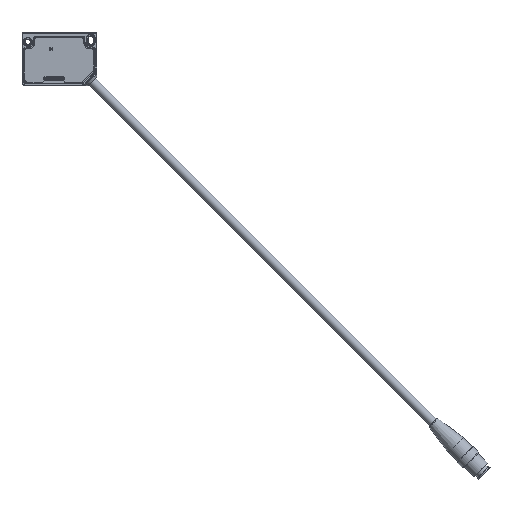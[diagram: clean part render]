
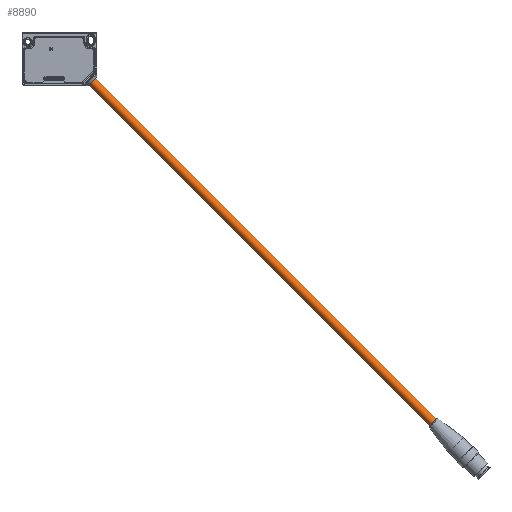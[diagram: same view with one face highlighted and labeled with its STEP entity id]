
A CAD part, left-side view. The second image highlights one B-rep face of the part: STEP entity #8890.
In plain terms, the highlighted cylindrical face has radius 2.75 mm (diameter 5.5 mm), a partial arc.
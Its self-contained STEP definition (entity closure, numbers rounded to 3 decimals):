
#313 = LINE ( 'NONE', #1529, #9917 ) ;
#1030 = ORIENTED_EDGE ( 'NONE', *, *, #15158, .T. ) ;
#1529 = CARTESIAN_POINT ( 'NONE',  ( 0., 6.894, -22.202 ) ) ;
#1959 = CARTESIAN_POINT ( 'NONE',  ( 0., 4.738, -28.248 ) ) ;
#2143 = CYLINDRICAL_SURFACE ( 'NONE', #16513, 2.75 ) ;
#3105 = EDGE_LOOP ( 'NONE', ( #16749, #1030, #12247, #8763 ) ) ;
#3279 = DIRECTION ( 'NONE',  ( 0., -0.707, -0.707 ) ) ;
#4406 = CARTESIAN_POINT ( 'NONE',  ( 0., -211.46, -240.556 ) ) ;
#4835 = DIRECTION ( 'NONE',  ( 0., -0.707, -0.707 ) ) ;
#6314 = CARTESIAN_POINT ( 'NONE',  ( 0., 8.839, -24.146 ) ) ;
#6806 = VERTEX_POINT ( 'NONE', #11029 ) ;
#7320 = EDGE_CURVE ( 'NONE', #13262, #12205, #313, .T. ) ;
#7702 = DIRECTION ( 'NONE',  ( 0., -0.707, -0.707 ) ) ;
#7793 = EDGE_CURVE ( 'NONE', #15268, #12205, #16472, .T. ) ;
#7956 = DIRECTION ( 'NONE',  ( 0., 0.707, 0.707 ) ) ;
#7980 = FACE_OUTER_BOUND ( 'NONE', #3105, .T. ) ;
#8486 = AXIS2_PLACEMENT_3D ( 'NONE', #10847, #7956, #12315 ) ;
#8678 = VECTOR ( 'NONE', #12933, 1000. ) ;
#8763 = ORIENTED_EDGE ( 'NONE', *, *, #7793, .T. ) ;
#8890 = ADVANCED_FACE ( 'NONE', ( #7980 ), #2143, .T. ) ;
#9025 = CARTESIAN_POINT ( 'NONE',  ( 0., 10.783, -26.091 ) ) ;
#9169 = CARTESIAN_POINT ( 'NONE',  ( 0., 2.793, -26.303 ) ) ;
#9917 = VECTOR ( 'NONE', #3279, 1000. ) ;
#10847 = CARTESIAN_POINT ( 'NONE',  ( 0., -209.516, -242.501 ) ) ;
#11029 = CARTESIAN_POINT ( 'NONE',  ( 0., 6.682, -30.192 ) ) ;
#11280 = EDGE_CURVE ( 'NONE', #6806, #15268, #17184, .T. ) ;
#12063 = DIRECTION ( 'NONE',  ( 0., 0.707, -0.707 ) ) ;
#12205 = VERTEX_POINT ( 'NONE', #4406 ) ;
#12247 = ORIENTED_EDGE ( 'NONE', *, *, #11280, .T. ) ;
#12315 = DIRECTION ( 'NONE',  ( 0., 0.707, -0.707 ) ) ;
#12926 = CIRCLE ( 'NONE', #14399, 2.75 ) ;
#12933 = DIRECTION ( 'NONE',  ( 0., -0.707, -0.707 ) ) ;
#13099 = DIRECTION ( 'NONE',  ( 0., 0.707, -0.707 ) ) ;
#13262 = VERTEX_POINT ( 'NONE', #9169 ) ;
#14399 = AXIS2_PLACEMENT_3D ( 'NONE', #1959, #7702, #13099 ) ;
#15034 = CARTESIAN_POINT ( 'NONE',  ( 0., -207.571, -244.446 ) ) ;
#15158 = EDGE_CURVE ( 'NONE', #13262, #6806, #12926, .T. ) ;
#15268 = VERTEX_POINT ( 'NONE', #15034 ) ;
#16472 = CIRCLE ( 'NONE', #8486, 2.75 ) ;
#16513 = AXIS2_PLACEMENT_3D ( 'NONE', #6314, #4835, #12063 ) ;
#16749 = ORIENTED_EDGE ( 'NONE', *, *, #7320, .F. ) ;
#17184 = LINE ( 'NONE', #9025, #8678 ) ;
